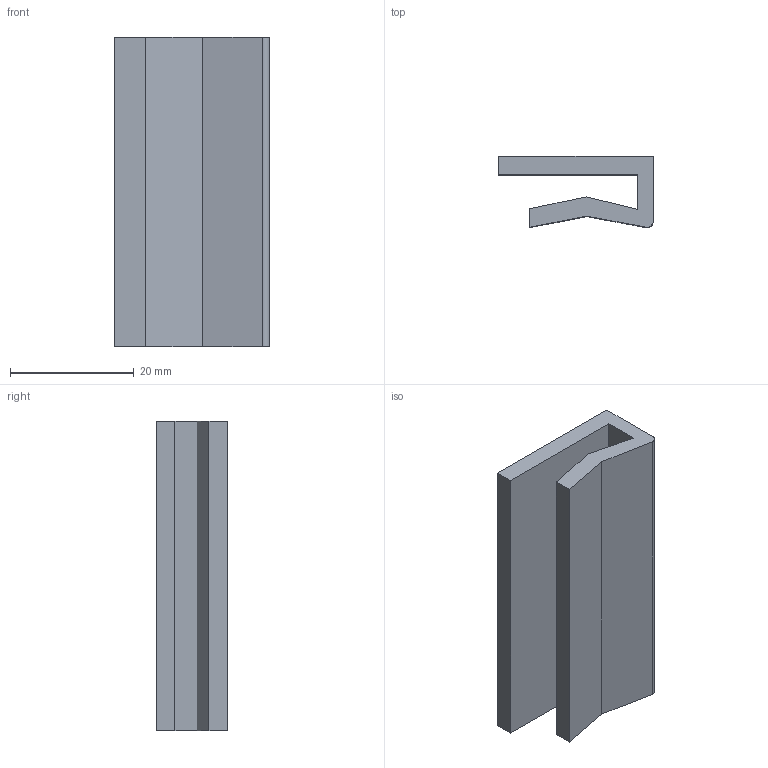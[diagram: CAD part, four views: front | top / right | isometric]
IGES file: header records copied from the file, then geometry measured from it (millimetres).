
Start section: SolidWorks IGES file using analytic representation for surfaces
Global section: file name: C:\Documents and Settings\URETIM3\Desktop\yeni katalog tolgay düzenli\E kataloðu\GEÇMELÝ LAMA PROFÝL ALPOLEN 1000\206 GLA 105.P25.IGS; native system: SolidWorks 2006 by SolidWorks Corporation; preprocessor: SolidWorks 2006 by SolidWorks Corporation; author: URETIM3; date: 060912.175430; units: millimetre
Bounding box: 25 x 11.5 x 50 mm (x, y, z)
Surface area: 5720.2 mm2 (no closed solid volume)
Topology: 0 solids, 0 shells, 13 faces, 80 edges, 80 vertices
Faces by surface type: bspline 12, revolution 1
